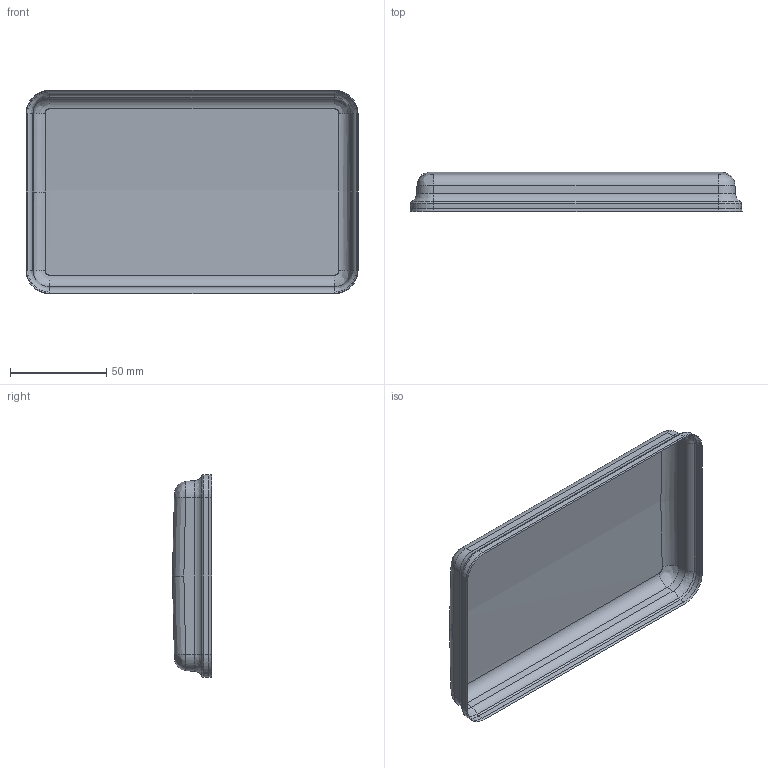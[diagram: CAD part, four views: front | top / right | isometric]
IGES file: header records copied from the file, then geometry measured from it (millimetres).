
Start section: SolidWorks IGES file using analytic representation for surfaces
Global section: file name: R:\USERS\btennant\case_iges\1050\1051-921-200_top.IGS; native system: SolidWorks 2005 by SolidWorks Corporation; preprocessor: SolidWorks 2005 by SolidWorks Corporation; author: btennant; date: 050329.095158; units: inch
Bounding box: 172.32 x 20.28 x 105.65 mm (x, y, z)
Surface area: 25456 mm2 (no closed solid volume)
Topology: 0 solids, 0 shells, 50 faces, 247 edges, 247 vertices
Faces by surface type: bspline 27, revolution 23
